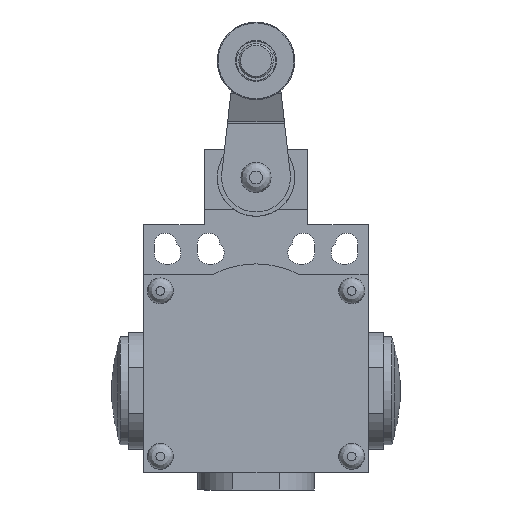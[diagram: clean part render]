
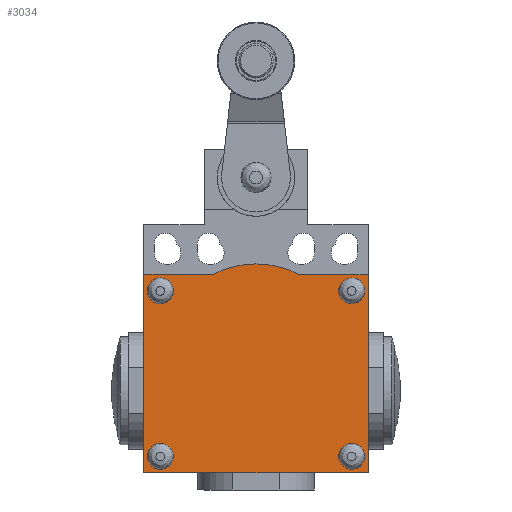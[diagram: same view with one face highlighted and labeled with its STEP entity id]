
A CAD part, front view. The second image highlights one B-rep face of the part: STEP entity #3034.
In plain terms, the highlighted planar face has unit normal (0, -1, 0) as drawn and (0, 0, 1) by its records, which use the part's own axes.
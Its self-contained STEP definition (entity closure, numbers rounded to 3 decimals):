
#1942=CARTESIAN_POINT('',(26.0,0.0,28.65));
#1943=VERTEX_POINT('',#1942);
#1950=CARTESIAN_POINT('',(-26.,0.0,28.65));
#1951=VERTEX_POINT('',#1950);
#1952=CARTESIAN_POINT('',(26.0,0.0,28.65));
#1953=DIRECTION('',(-1.0,0.0,0.0));
#1954=VECTOR('',#1953,52.);
#1955=LINE('',#1952,#1954);
#1956=EDGE_CURVE('',#1943,#1951,#1955,.T.);
#2448=CARTESIAN_POINT('',(-26.,46.,28.65));
#2449=VERTEX_POINT('',#2448);
#2450=CARTESIAN_POINT('',(-26.,0.0,28.65));
#2451=DIRECTION('',(0.0,1.0,0.0));
#2452=VECTOR('',#2451,46.);
#2453=LINE('',#2450,#2452);
#2454=EDGE_CURVE('',#1951,#2449,#2453,.T.);
#2570=CARTESIAN_POINT('',(-19.2,3.8,28.65));
#2571=VERTEX_POINT('',#2570);
#2572=CARTESIAN_POINT('',(-22.2,3.8,28.65));
#2573=DIRECTION('',(0.0,0.0,-1.0));
#2574=DIRECTION('',(-1.0,0.0,0.0));
#2575=AXIS2_PLACEMENT_3D('',#2572,#2573,#2574);
#2576=CIRCLE('',#2575,3.);
#2577=EDGE_CURVE('',#2571,#2571,#2576,.T.);
#2675=CARTESIAN_POINT('',(25.2,3.8,28.65));
#2676=VERTEX_POINT('',#2675);
#2677=CARTESIAN_POINT('',(22.2,3.8,28.65));
#2678=DIRECTION('',(0.0,0.0,-1.0));
#2679=DIRECTION('',(-1.0,0.0,0.0));
#2680=AXIS2_PLACEMENT_3D('',#2677,#2678,#2679);
#2681=CIRCLE('',#2680,3.);
#2682=EDGE_CURVE('',#2676,#2676,#2681,.T.);
#2780=CARTESIAN_POINT('',(25.2,42.2,28.65));
#2781=VERTEX_POINT('',#2780);
#2782=CARTESIAN_POINT('',(22.2,42.2,28.65));
#2783=DIRECTION('',(0.0,0.0,-1.0));
#2784=DIRECTION('',(-1.0,0.0,0.0));
#2785=AXIS2_PLACEMENT_3D('',#2782,#2783,#2784);
#2786=CIRCLE('',#2785,3.);
#2787=EDGE_CURVE('',#2781,#2781,#2786,.T.);
#2885=CARTESIAN_POINT('',(-19.2,42.2,28.65));
#2886=VERTEX_POINT('',#2885);
#2887=CARTESIAN_POINT('',(-22.2,42.2,28.65));
#2888=DIRECTION('',(0.0,0.0,-1.0));
#2889=DIRECTION('',(-1.0,0.0,0.0));
#2890=AXIS2_PLACEMENT_3D('',#2887,#2888,#2889);
#2891=CIRCLE('',#2890,3.);
#2892=EDGE_CURVE('',#2886,#2886,#2891,.T.);
#2914=CARTESIAN_POINT('',(-10.077,46.,28.65));
#2915=VERTEX_POINT('',#2914);
#2916=CARTESIAN_POINT('',(-26.,46.,28.65));
#2917=DIRECTION('',(1.0,0.0,0.0));
#2918=VECTOR('',#2917,15.923);
#2919=LINE('',#2916,#2918);
#2920=EDGE_CURVE('',#2449,#2915,#2919,.T.);
#2945=CARTESIAN_POINT('',(10.077,46.,28.65));
#2946=VERTEX_POINT('',#2945);
#2947=CARTESIAN_POINT('',(0.,26.5,28.65));
#2948=DIRECTION('',(0.0,0.0,-1.));
#2949=DIRECTION('',(0.459,0.888,0.0));
#2950=AXIS2_PLACEMENT_3D('',#2947,#2948,#2949);
#2951=CIRCLE('',#2950,21.95);
#2952=EDGE_CURVE('',#2915,#2946,#2951,.T.);
#2978=CARTESIAN_POINT('',(26.0,46.,28.65));
#2979=VERTEX_POINT('',#2978);
#2980=CARTESIAN_POINT('',(10.077,46.,28.65));
#2981=DIRECTION('',(1.0,0.0,0.0));
#2982=VECTOR('',#2981,15.923);
#2983=LINE('',#2980,#2982);
#2984=EDGE_CURVE('',#2946,#2979,#2983,.T.);
#3004=CARTESIAN_POINT('',(0.,23.248,28.65));
#3005=DIRECTION('',(0.0,0.0,1.0));
#3006=DIRECTION('',(1.0,0.0,0.0));
#3007=AXIS2_PLACEMENT_3D('',#3004,#3005,#3006);
#3008=PLANE('',#3007);
#3009=ORIENTED_EDGE('',*,*,#2454,.F.);
#3010=ORIENTED_EDGE('',*,*,#1956,.F.);
#3011=CARTESIAN_POINT('',(26.0,46.,28.65));
#3012=DIRECTION('',(0.0,-1.0,0.0));
#3013=VECTOR('',#3012,46.);
#3014=LINE('',#3011,#3013);
#3015=EDGE_CURVE('',#2979,#1943,#3014,.T.);
#3016=ORIENTED_EDGE('',*,*,#3015,.F.);
#3017=ORIENTED_EDGE('',*,*,#2984,.F.);
#3018=ORIENTED_EDGE('',*,*,#2952,.F.);
#3019=ORIENTED_EDGE('',*,*,#2920,.F.);
#3020=EDGE_LOOP('',(#3009,#3010,#3016,#3017,#3018,#3019));
#3021=FACE_OUTER_BOUND('',#3020,.T.);
#3022=ORIENTED_EDGE('',*,*,#2682,.T.);
#3023=EDGE_LOOP('',(#3022));
#3024=FACE_BOUND('',#3023,.T.);
#3025=ORIENTED_EDGE('',*,*,#2577,.T.);
#3026=EDGE_LOOP('',(#3025));
#3027=FACE_BOUND('',#3026,.T.);
#3028=ORIENTED_EDGE('',*,*,#2892,.T.);
#3029=EDGE_LOOP('',(#3028));
#3030=FACE_BOUND('',#3029,.T.);
#3031=ORIENTED_EDGE('',*,*,#2787,.T.);
#3032=EDGE_LOOP('',(#3031));
#3033=FACE_BOUND('',#3032,.T.);
#3034=ADVANCED_FACE('',(#3021,#3024,#3027,#3030,#3033),#3008,.T.);
